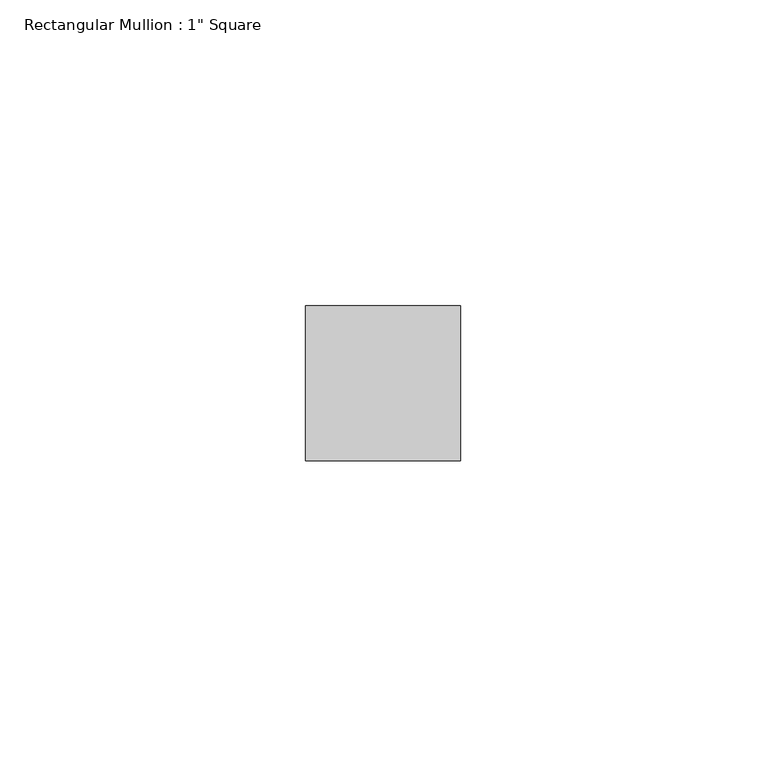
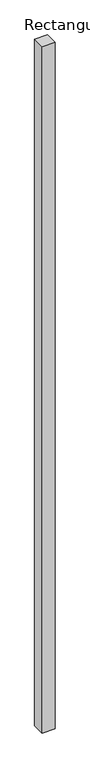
"""IFC4 building model written with IfcOpenShell, lengths in millimetres: member geometry."""

from ifc_helpers import new_model, si_unit, frame, origin, place, context, project, spatial, polyline, outline, extrude, source, transform, mapped, element, save


def member_b335b832(model_context):
    return source(origin(), model_context, "Body", "SweptSolid", [
        extrude(outline(polyline([(0.0, 12.7), (0.0, -12.7), (-25.4, -12.7), (-25.4, 12.7), (0.0, 12.7)])), frame((0.0, 0.0, -1421.695024), z_axis=(0.0, 0.0, 1.0), x_axis=(1.0, 0.0, 0.0)), (0.0, 0.0, 1.0), 1421.695024),
    ])


if __name__ == "__main__":
    model = new_model("IFC4")
    model_context = context("Model", 3, world=origin())
    ifc_project = project(units=[si_unit("LENGTHUNIT", "METRE", prefix="MILLI")], contexts=[model_context])
    site = spatial("IfcSite", under=ifc_project)
    building = spatial("IfcBuilding", under=site)
    placement = place(None, origin())
    member_shape = member_b335b832(model_context)
    element("IfcMember", 1, ObjectType="Rectangular Mullion : 1\" Square", at=placement, inside=building, context=model_context, shape_type="MappedRepresentation", body=[
        mapped(member_shape, transform((0.0, 0.0, 0.0), x_axis=(1.0, 0.0, 0.0), y_axis=(0.0, 1.0, 0.0), z_axis=(0.0, 0.0, 1.0))),
    ])
    save(model, "model.ifc")
